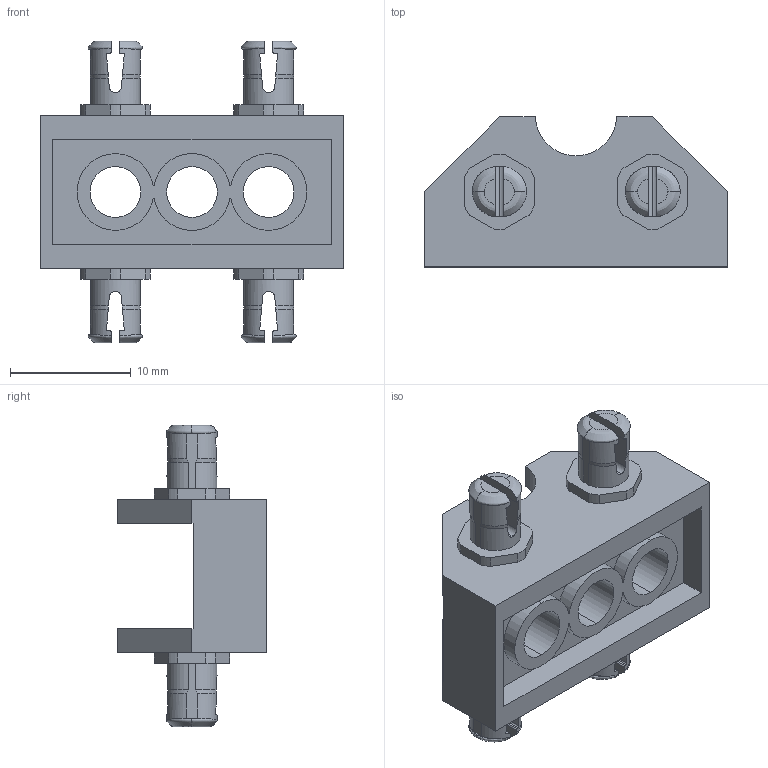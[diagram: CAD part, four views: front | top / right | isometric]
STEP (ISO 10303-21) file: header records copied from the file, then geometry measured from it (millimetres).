
FILE_DESCRIPTION (( 'STEP AP214' ), '1' );
FILE_NAME ('228-2500-2308.STEP', '2021-02-18T20:40:29', ( '' ), ( '' ), 'SwSTEP 2.0', 'SolidWorks 2019', '' );
FILE_SCHEMA (( 'AUTOMOTIVE_DESIGN' ));
Length unit declared in the file: millimetre
Products named in the file (1): 228-2500-2308
Bounding box: 25.1 x 12.43 x 24.98 mm (x, y, z)
Volume: 1903.4 mm3; surface area: 2497.8 mm2
Topology: 1 solids, 1 shells, 255 faces, 710 edges, 468 vertices
Faces by surface type: plane 111, cylinder 96, bspline 32, cone 16
Entity records: 28030 total; most frequent: CARTESIAN_POINT 21842, ORIENTED_EDGE 1420, DIRECTION 1118, EDGE_CURVE 710, VERTEX_POINT 468, AXIS2_PLACEMENT_3D 392, VECTOR 334, LINE 334
